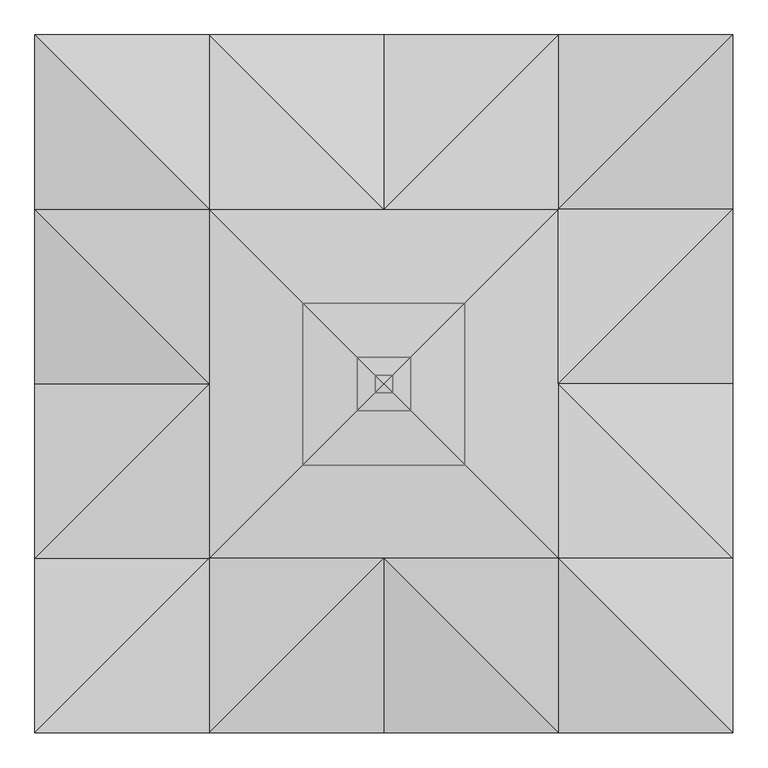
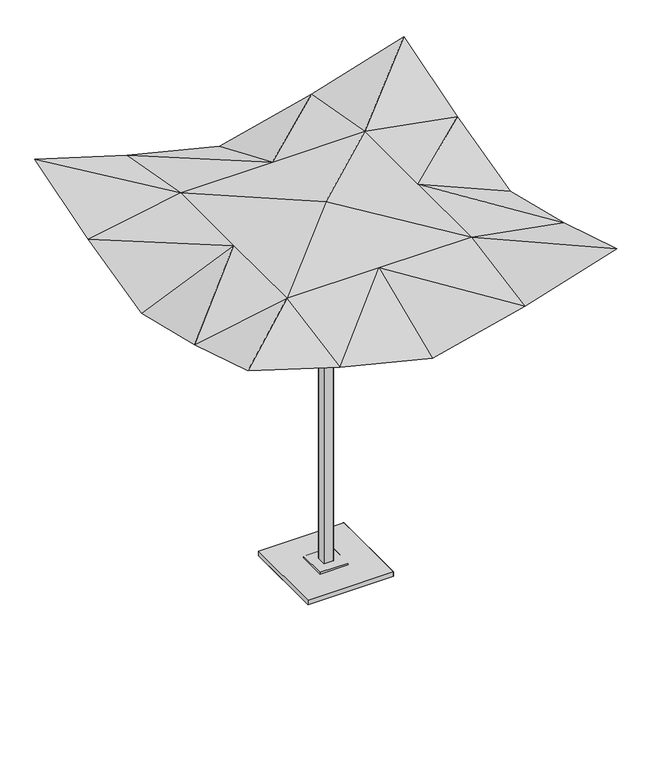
"""IFC4 building model written with IfcOpenShell, lengths in millimetres: geographic element geometry, Enscape AssetDefinition - Sunshade 002 : Enscape AssetDefinition - Sunshade 002."""

import ifcopenshell
import ifcopenshell.guid

model = None  # the IFC model being written
_history = None  # IfcOwnerHistory: only IFC2X3 demands one
_inside = {}  # id of a spatial element -> (the spatial element, [elements in it])
_under = {}  # id of a project, library or spatial element -> (it, [spatial elements below it])
_declared = {}  # id of a project -> (the project, [libraries it declares])
_typed = {}  # id of a type object -> (the type object, [elements of that type])
_made_of = {}  # id of a material, layer set ... -> (it, [elements and type objects made of it])


def new_model(schema):
    """Start an empty IFC model of exactly this schema.

    Asked for "IFC4X3", IfcOpenShell would pick the latest addendum, in which some entities
    have other attributes; the version numbers below select the first issue.
    IFC2X3 requires an IfcOwnerHistory on every rooted entity: one is made here for all.
    """
    global model, _history
    if schema == "IFC4X3":
        model = ifcopenshell.file(schema_version=(4, 3, 0, 0))
    else:
        model = ifcopenshell.file(schema=schema)
    _inside.clear()
    _under.clear()
    _declared.clear()
    _typed.clear()
    _made_of.clear()
    _history = None
    if model.schema == "IFC2X3":
        org = make("IfcOrganization", Name="unknown")
        user = make(
            "IfcPersonAndOrganization",
            ThePerson=make("IfcPerson", FamilyName="unknown"),
            TheOrganization=org,
        )
        app = make(
            "IfcApplication",
            ApplicationDeveloper=org,
            Version="unknown",
            ApplicationFullName="unknown",
            ApplicationIdentifier="unknown",
        )
        _history = make(
            "IfcOwnerHistory",
            OwningUser=user,
            OwningApplication=app,
            ChangeAction="ADDED",
            CreationDate=0,
        )
    return model


def make(cls, **values):
    """One entity of the class cls with the attributes given. An attribute that is None is left unset."""
    return model.create_entity(
        cls, **{name: value for name, value in values.items() if value is not None}
    )


def rooted(cls, **values):
    """An entity with a GlobalId (a new one), such as an element, a storey or a relation."""
    return make(cls, GlobalId=ifcopenshell.guid.new(), OwnerHistory=_history, **values)


def si_unit(unit_type, name, prefix=None):
    """IfcSIUnit, for example si_unit("LENGTHUNIT", "METRE", prefix="MILLI")."""
    return make("IfcSIUnit", UnitType=unit_type, Prefix=prefix, Name=name)


def assignment(units):
    """IfcUnitAssignment: the units of a project."""
    return None if units is None else make("IfcUnitAssignment", Units=units)


def point(xyz):
    """IfcCartesianPoint."""
    return None if xyz is None else make("IfcCartesianPoint", Coordinates=xyz)


def direction(xyz):
    """IfcDirection."""
    return None if xyz is None else make("IfcDirection", DirectionRatios=xyz)


def frame(location, z_axis=None, x_axis=None):
    """IfcAxis2Placement3D, a coordinate frame: its origin and axes. An axis left out is left unset."""
    return make(
        "IfcAxis2Placement3D",
        Location=point(location),
        Axis=direction(z_axis),
        RefDirection=direction(x_axis),
    )


def origin():
    """The frame at (0, 0, 0) with its axes left unset."""
    return frame((0.0, 0.0, 0.0))


def place(relative_to, where):
    """IfcLocalPlacement: puts the frame where relative to a parent placement (None: the world)."""
    return make(
        "IfcLocalPlacement", PlacementRelTo=relative_to, RelativePlacement=where
    )


def context(
    kind, dimensions, precision=None, world=None, true_north=None, identifier=None
):
    """IfcGeometricRepresentationContext, for example the 3D "Model" context."""
    return make(
        "IfcGeometricRepresentationContext",
        ContextIdentifier=identifier,
        ContextType=kind,
        CoordinateSpaceDimension=dimensions,
        Precision=precision,
        WorldCoordinateSystem=world,
        TrueNorth=true_north,
    )


def project(units=None, contexts=None):
    """IfcProject with its units and contexts."""
    return rooted(
        "IfcProject",
        Name="project",
        RepresentationContexts=contexts,
        UnitsInContext=assignment(units),
    )


def spatial(cls, under=None, at=None, **own):
    """A site, building, storey or space (cls), placed at a placement, below another one or the project."""
    s = rooted(cls, ObjectPlacement=at, **own)
    if under is not None:
        _under.setdefault(under.id(), (under, []))[1].append(s)
    return s


def point_list(points):
    """IfcCartesianPointList2D or 3D."""
    cls = (
        "IfcCartesianPointList2D" if len(points[0]) == 2 else "IfcCartesianPointList3D"
    )
    return make(cls, CoordList=points)


def triangles(points, corners, closed=None, point_numbers=None):
    """IfcTriangulatedFaceSet: each triangle names its three corners, points numbered from 1."""
    return make(
        "IfcTriangulatedFaceSet",
        Coordinates=point_list(points),
        Closed=closed,
        CoordIndex=corners,
        PnIndex=point_numbers,
    )


def shape(context_of_items, identifier, shape_type, items):
    """IfcShapeRepresentation: the items that make up one representation, for example the "Body"."""
    return make(
        "IfcShapeRepresentation",
        ContextOfItems=context_of_items,
        RepresentationIdentifier=identifier,
        RepresentationType=shape_type,
        Items=items,
    )


def source(mapping_origin, context_of_items, identifier, shape_type, items):
    """IfcRepresentationMap: a shape defined once, which mapped items show again and again."""
    return make(
        "IfcRepresentationMap",
        MappingOrigin=mapping_origin,
        MappedRepresentation=shape(context_of_items, identifier, shape_type, items),
    )


def transform(
    local_origin,
    x_axis=None,
    y_axis=None,
    z_axis=None,
    scale=None,
    scale2=None,
    scale3=None,
    uniform=True,
):
    """IfcCartesianTransformationOperator3D, or its non-uniform kind. x_axis, y_axis, z_axis: its Axis1, 2, 3."""
    if uniform:
        return make(
            "IfcCartesianTransformationOperator3D",
            Axis1=direction(x_axis),
            Axis2=direction(y_axis),
            LocalOrigin=point(local_origin),
            Scale=scale,
            Axis3=direction(z_axis),
        )
    return make(
        "IfcCartesianTransformationOperator3DnonUniform",
        Axis1=direction(x_axis),
        Axis2=direction(y_axis),
        LocalOrigin=point(local_origin),
        Scale=scale,
        Axis3=direction(z_axis),
        Scale2=scale2,
        Scale3=scale3,
    )


def mapped(mapping_source, mapping_target):
    """IfcMappedItem: shows the shape of a source again, moved by a transform."""
    return make(
        "IfcMappedItem", MappingSource=mapping_source, MappingTarget=mapping_target
    )


def made_of(thing, what):
    """Note that an element or type object is made of a material, layer set ...; save() writes the relation."""
    if what is not None:
        _made_of.setdefault(what.id(), (what, []))[1].append(thing)
    return thing


def element(
    cls,
    number,
    at=None,
    inside=None,
    cuts=None,
    type_object=None,
    material=None,
    context=None,
    identifier="Body",
    shape_type=None,
    held_by="IfcProductDefinitionShape",
    body=None,
    shapes=None,
    **own,
):
    """One element of the class cls, such as IfcWall. Its Tag is "e" and its number.

    at: its placement. inside: the storey or other place that contains it. cuts: it is an
    opening in that element (IfcRelVoidsElement). A single representation is given by context,
    identifier, shape_type and body (its items); several are given by shapes. held_by: the class
    of the entity that holds the representations. save() writes the other relations.
    """
    e = rooted(cls, Tag="e%d" % number, ObjectPlacement=at, **own)
    if body is not None:
        shapes = [shape(context, identifier, shape_type, body)]
    if shapes is not None:
        e.Representation = make(held_by, Representations=shapes)
    if inside is not None:
        _inside.setdefault(inside.id(), (inside, []))[1].append(e)
    if cuts is not None:
        rooted(
            "IfcRelVoidsElement", RelatingBuildingElement=cuts, RelatedOpeningElement=e
        )
    if type_object is not None:
        _typed.setdefault(type_object.id(), (type_object, []))[1].append(e)
    return made_of(e, material)


def aggregate(whole, parts):
    """IfcRelAggregates: a whole, such as a stair, and the parts it consists of."""
    return rooted("IfcRelAggregates", RelatingObject=whole, RelatedObjects=parts)


def save(model, path):
    """Write the relations noted so far, then the file.

    IfcRelAggregates (storeys below a building ...), IfcRelContainedInSpatialStructure (elements
    in a storey), IfcRelDefinesByType, IfcRelAssociatesMaterial and IfcRelDeclares: one each for
    every whole, place, type object, material and project.
    """
    for whole, parts in _under.values():
        aggregate(whole, parts)
    for where, things in _inside.values():
        rooted(
            "IfcRelContainedInSpatialStructure",
            RelatedElements=things,
            RelatingStructure=where,
        )
    for kind, things in _typed.values():
        rooted("IfcRelDefinesByType", RelatedObjects=things, RelatingType=kind)
    for what, things in _made_of.values():
        rooted("IfcRelAssociatesMaterial", RelatedObjects=things, RelatingMaterial=what)
    for by, libraries in _declared.values():
        rooted("IfcRelDeclares", RelatingContext=by, RelatedDefinitions=libraries)
    model.write(path)


def geographic_element_18a1116b(model_context):
    return source(origin(), model_context, "Body", "Tessellation", [
        triangles([(253.1636896, -253.1636896, 0.0), (-253.1636896, -253.1636896, 0.0), (-253.1636896, 253.1636896, 0.0), (253.1636896, 253.1636896, 0.0), (-253.1636896, -253.1636896, 28.3484922), (-83.1917516, 83.1917516, 28.1869173), (253.1636896, 253.1636896, 28.3484922), (-253.1636896, 253.1636896, 28.3484922), (83.1917516, -83.1917516, 28.1869173), (253.1636896, -253.1636896, 28.3484922), (83.1917516, 83.1917516, 28.1869173), (83.1917516, 83.1917516, 40.0167162), (-83.1917516, -83.1917516, 28.1869173), (83.1917516, -83.1917516, 40.0167162), (-83.1917516, 83.1917516, 40.0167162), (27.6170438, -27.6170438, 40.0167162), (-27.6170438, 27.6170438, 40.0167162), (27.6170438, 27.6170438, 40.0167162), (-83.1917516, -83.1917516, 40.0167162), (-27.6170438, -27.6170438, 40.0167162), (-27.6170438, 27.6170438, 2190.7095955), (-27.6170438, -27.6170438, 2190.7095955), (27.6170438, -27.6170438, 2190.7095955), (27.6170438, 27.6170438, 2190.7095955), (1091.7122149, 545.8561074, 2095.1846123), (1091.7122149, 1091.7122149, 2263.8955353), (545.8561074, 545.8561074, 2194.3416412), (545.8561074, 0.0, 2194.3416412), (545.8561074, -545.8561074, 2194.3416412), (1091.7122149, 0.0, 1961.0612583), (1091.7122149, -545.8561074, 2095.1846123), (545.8561074, -1091.7122149, 2095.1846123), (1091.7122149, -1091.7122149, 2263.8955353), (0.0, -545.8561074, 2194.3416412), (0.0, -1091.7122149, 1961.0612583), (-545.8561074, -1091.7122149, 2095.1846123), (-1091.7122149, -1091.7122149, 2263.8955353), (-545.8561074, -545.8561074, 2194.3416412), (-1091.7122149, -545.8561074, 2095.1846123), (-545.8561074, 0.0, 2194.3416412), (-1091.7122149, 0.0, 1961.0612583), (0.0, 0.0, 2275.6032509), (-1091.7122149, 545.8561074, 2095.1846123), (0.0, 545.8561074, 2194.3416412), (-545.8561074, 1091.7122149, 2095.1846123), (-545.8561074, 545.8561074, 2194.3416412), (-1091.7122149, 1091.7122149, 2263.8955353), (545.8561074, 1091.7122149, 2095.1846123), (0.0, 1091.7122149, 1961.0612583)], [[44, 49, 45], [44, 48, 49], [43, 46, 47], [46, 45, 47], [44, 45, 46], [42, 44, 46], [40, 46, 43], [40, 42, 46], [40, 43, 41], [39, 40, 41], [39, 38, 40], [39, 37, 38], [40, 38, 42], [37, 36, 38], [36, 35, 34], [36, 34, 38], [32, 34, 35], [38, 34, 42], [32, 29, 34], [32, 33, 29], [34, 29, 42], [33, 31, 29], [31, 30, 28], [29, 28, 42], [31, 28, 29], [28, 30, 25], [44, 27, 48], [48, 27, 26], [44, 42, 27], [28, 25, 27], [42, 28, 27], [27, 25, 26], [23, 24, 21], [23, 21, 22], [17, 21, 24], [18, 24, 23], [17, 24, 18], [16, 23, 22], [18, 23, 16], [20, 22, 21], [16, 22, 20], [20, 21, 17], [19, 20, 17], [15, 17, 18], [19, 17, 15], [12, 18, 16], [15, 18, 12], [14, 16, 20], [12, 16, 14], [14, 20, 19], [9, 14, 19], [13, 19, 15], [9, 19, 13], [6, 15, 12], [13, 15, 6], [11, 12, 14], [6, 12, 11], [11, 14, 9], [7, 11, 9], [4, 7, 10], [10, 9, 13], [7, 9, 10], [5, 13, 6], [10, 13, 5], [8, 6, 11], [8, 11, 7], [5, 6, 8], [2, 5, 8], [1, 10, 5], [4, 10, 1], [1, 5, 2], [3, 8, 7], [3, 4, 1], [2, 8, 3], [3, 7, 4], [3, 1, 2]], closed=False),
    ])


if __name__ == "__main__":
    model = new_model("IFC4")
    model_context = context("Model", 3, world=origin())
    ifc_project = project(units=[si_unit("LENGTHUNIT", "METRE", prefix="MILLI")], contexts=[model_context])
    site = spatial("IfcSite", under=ifc_project)
    building = spatial("IfcBuilding", under=site)
    placement = place(None, origin())
    geographic_element_shape = geographic_element_18a1116b(model_context)
    element("IfcGeographicElement", 1, ObjectType="Enscape AssetDefinition - Sunshade 002 : Enscape AssetDefinition - Sunshade 002", at=placement, inside=building, context=model_context, shape_type="MappedRepresentation", body=[
        mapped(geographic_element_shape, transform((0.0, 0.0, 0.0), x_axis=(1.0, 0.0, 0.0), y_axis=(0.0, 1.0, 0.0), z_axis=(0.0, 0.0, 1.0))),
    ])
    save(model, "model.ifc")
